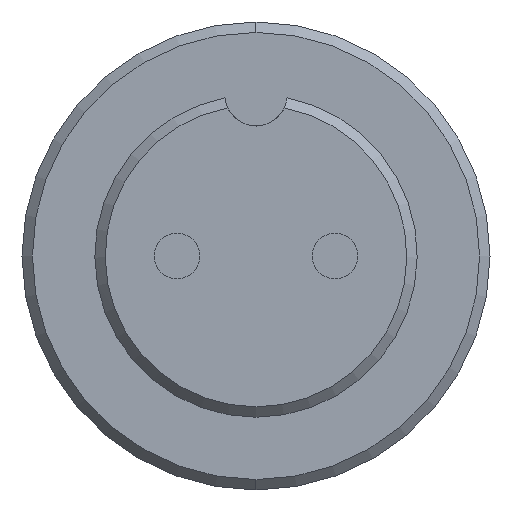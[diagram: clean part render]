
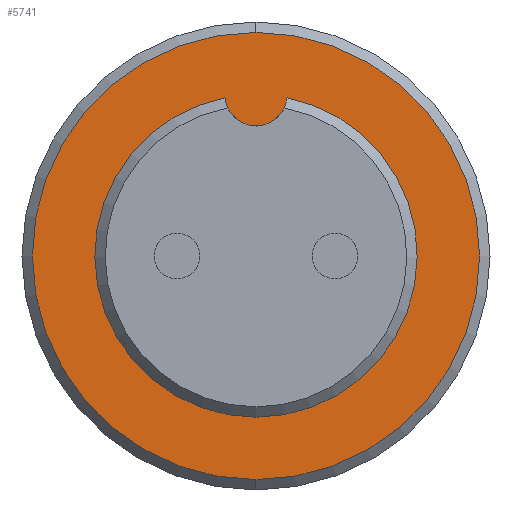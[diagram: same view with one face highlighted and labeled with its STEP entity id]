
A CAD part, left-side view. The second image highlights one B-rep face of the part: STEP entity #5741.
In plain terms, the highlighted planar face has unit normal (-1, 0, 0) as drawn and (1, 0, 0) by its records, which use the part's own axes.
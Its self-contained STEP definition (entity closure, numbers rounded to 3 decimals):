
#3797=CARTESIAN_POINT('',(24.,0.,7.75));
#3798=DIRECTION('',(1.,0.,0.));
#3799=DIRECTION('',(0.,-0.995,-0.097));
#3800=AXIS2_PLACEMENT_3D('',#3797,#3798,#3799);
#3802=CARTESIAN_POINT('',(24.,0.,0.));
#3803=DIRECTION('',(-1.,0.,0.));
#3804=DIRECTION('',(0.,0.,-1.));
#3805=AXIS2_PLACEMENT_3D('',#3802,#3803,#3804);
#3807=CARTESIAN_POINT('',(24.,0.,0.));
#3808=DIRECTION('',(-1.,0.,0.));
#3809=DIRECTION('',(0.,0.,1.));
#3810=AXIS2_PLACEMENT_3D('',#3807,#3808,#3809);
#3816=CARTESIAN_POINT('',(24.,0.,0.));
#3817=DIRECTION('',(-1.,0.,0.));
#3818=DIRECTION('',(0.,0.193,0.981));
#3819=AXIS2_PLACEMENT_3D('',#3816,#3817,#3818);
#3918=CARTESIAN_POINT('',(24.,-1.493,7.605));
#3919=CARTESIAN_POINT('',(24.,1.493,7.605));
#3920=VERTEX_POINT('',#3918);
#3921=VERTEX_POINT('',#3919);
#3950=CARTESIAN_POINT('',(24.,0.,-10.75));
#3951=CARTESIAN_POINT('',(24.,0.,10.75));
#3952=VERTEX_POINT('',#3950);
#3953=VERTEX_POINT('',#3951);
#5726=CARTESIAN_POINT('',(24.,0.,0.));
#5727=DIRECTION('',(1.,0.,0.));
#5728=DIRECTION('',(0.,0.,-1.));
#5729=AXIS2_PLACEMENT_3D('',#5726,#5727,#5728);
#5730=PLANE('',#5729);
#5731=ORIENTED_EDGE('',*,*,#5706,.T.);
#5732=ORIENTED_EDGE('',*,*,#5720,.T.);
#5733=EDGE_LOOP('',(#5731,#5732));
#5734=FACE_OUTER_BOUND('',#5733,.F.);
#5736=ORIENTED_EDGE('',*,*,#5735,.F.);
#5738=ORIENTED_EDGE('',*,*,#5737,.F.);
#5739=EDGE_LOOP('',(#5736,#5738));
#5740=FACE_BOUND('',#5739,.F.);
#3801=CIRCLE('',#3800,1.5);
#3806=CIRCLE('',#3805,10.75);
#3811=CIRCLE('',#3810,10.75);
#3820=CIRCLE('',#3819,7.75);
#5706=EDGE_CURVE('',#3952,#3953,#3806,.T.);
#5720=EDGE_CURVE('',#3953,#3952,#3811,.T.);
#5735=EDGE_CURVE('',#3921,#3920,#3820,.T.);
#5737=EDGE_CURVE('',#3920,#3921,#3801,.T.);
#5741=ADVANCED_FACE('',(#5734,#5740),#5730,.T.);
